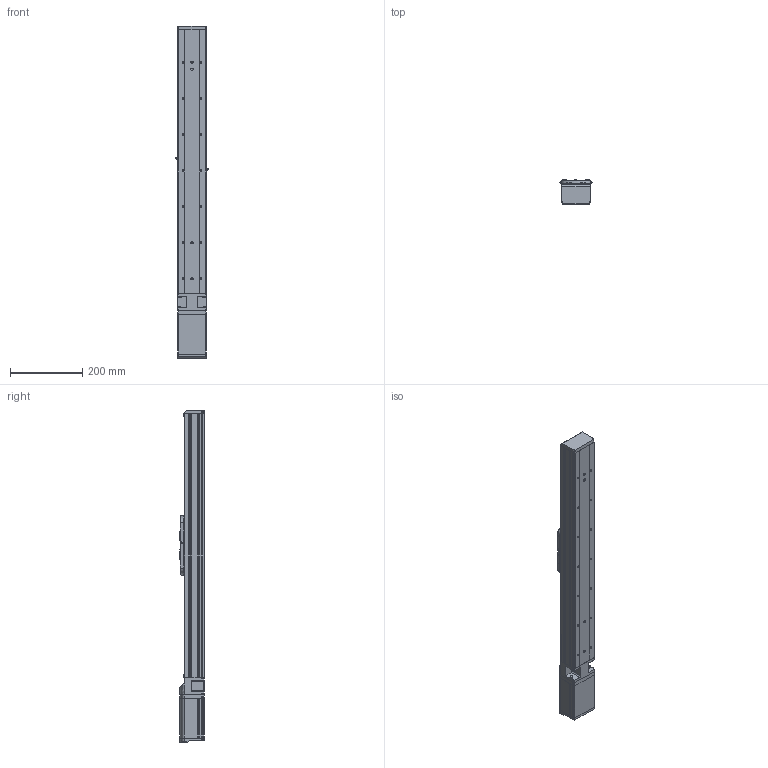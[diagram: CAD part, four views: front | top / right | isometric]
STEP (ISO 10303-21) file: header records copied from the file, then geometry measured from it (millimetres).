
FILE_DESCRIPTION (( 'STEP AP203' ), '1' );
FILE_NAME ('GERC80-550-FD-DX.STEP', '2020-04-28T04:01:30', ( '' ), ( '' ), 'SwSTEP 2.0', 'SolidWorks 2019', '' );
FILE_SCHEMA (( 'CONFIG_CONTROL_DESIGN' ));
Products named in the file (3): Group1^GERC80-550-FD-DX_defeature_GMT; Group2^GERC80-550-FD-DX_defeature_GMT; GERC80-550-FD-DX
Assembly tree (2 placements, depth 2):
  GERC80-550-FD-DX
    Group1^GERC80-550-FD-DX_defeature_GMT
    Group2^GERC80-550-FD-DX_defeature_GMT
Bounding box: 90 x 67.5 x 919 mm (x, y, z)
Volume: 2438846.5 mm3; surface area: 641261.2 mm2
Topology: 30 solids, 30 shells, 3314 faces, 8693 edges, 5433 vertices
Faces by surface type: plane 1278, cylinder 1006, cone 629, bspline 191, torus 134, sphere 76
Entity records: 127745 total; most frequent: CARTESIAN_POINT 46522, DIRECTION 17228, ORIENTED_EDGE 17156, EDGE_CURVE 8578, AXIS2_PLACEMENT_3D 6518, VERTEX_POINT 5395, VECTOR 4192, LINE 4192
